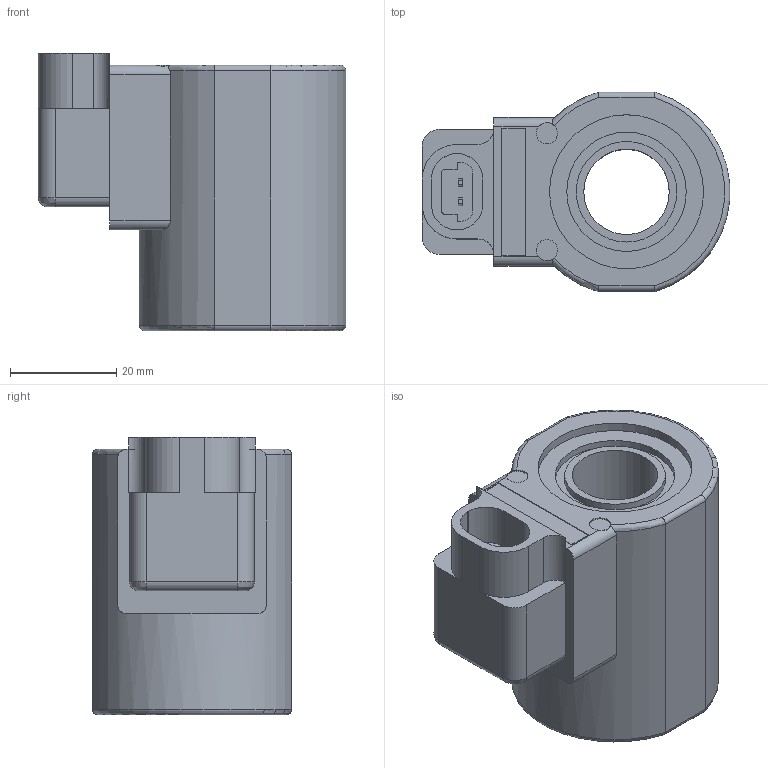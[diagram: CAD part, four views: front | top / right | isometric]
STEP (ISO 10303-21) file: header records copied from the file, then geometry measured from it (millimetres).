
FILE_DESCRIPTION((''),'2;1');
FILE_NAME('Q:\Delta CADD Insertion Codes\3D Solid models\Coils\STEP\LIM.stp','2012-06-04T10:05:51',('Dan'),(''),'Autodesk Inventor 2012','Autodesk Inventor 2012','');
FILE_SCHEMA(('AUTOMOTIVE_DESIGN { 1 0 10303 214 1 1 1 1 }'));
Length unit declared in the file: inch
Products named in the file (1): Part24
Bounding box: 57.9 x 37.5 x 52.26 mm (x, y, z)
Volume: 60169.7 mm3; surface area: 14055.3 mm2
Topology: 1 solids, 1 shells, 104 faces, 257 edges, 166 vertices
Faces by surface type: plane 61, cylinder 36, torus 5, bspline 2
Full cylindrical faces by diameter (mm): 4 x2, 16.104 x1, 18.948 x2, 22.504 x2, 29.03 x2
Entity records: 3275 total; most frequent: CARTESIAN_POINT 801, DIRECTION 505, ORIENTED_EDGE 492, EDGE_CURVE 246, AXIS2_PLACEMENT_3D 174, VERTEX_POINT 164, VECTOR 157, LINE 157
